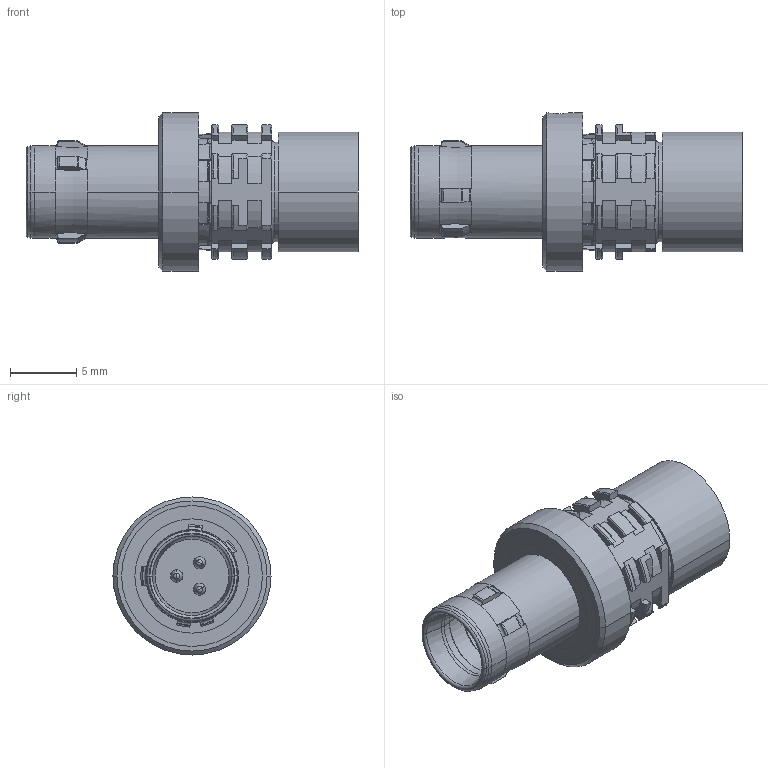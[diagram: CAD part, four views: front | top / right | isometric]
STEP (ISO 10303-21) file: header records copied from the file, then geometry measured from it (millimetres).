
FILE_DESCRIPTION((''),'2;1');
FILE_NAME('A10YAR-P03XJG0-0000','2014-12-22T',('mmeier'),(''),'PRO/ENGINEER BY PARAMETRIC TECHNOLOGY CORPORATION, 2013050','PRO/ENGINEER BY PARAMETRIC TECHNOLOGY CORPORATION, 2013050','');
FILE_SCHEMA(('AUTOMOTIVE_DESIGN { 1 0 10303 214 1 1 1 1 }'));
Length unit declared in the file: millimetre
Products named in the file (1): A10YAR-P03XJG0-0000
Bounding box: 25 x 11.9 x 11.9 mm (x, y, z)
Volume: 972.7 mm3; surface area: 1964.7 mm2
Topology: 2 solids, 2 shells, 559 faces, 1514 edges, 961 vertices
Faces by surface type: plane 185, cylinder 156, torus 133, cone 73, bspline 6, sphere 6
Entity records: 26071 total; most frequent: CARTESIAN_POINT 7921, ORIENTED_EDGE 3004, DIRECTION 2914, EDGE_CURVE 1502, AXIS2_PLACEMENT_3D 1148, VERTEX_POINT 961, VECTOR 618, LINE 618
